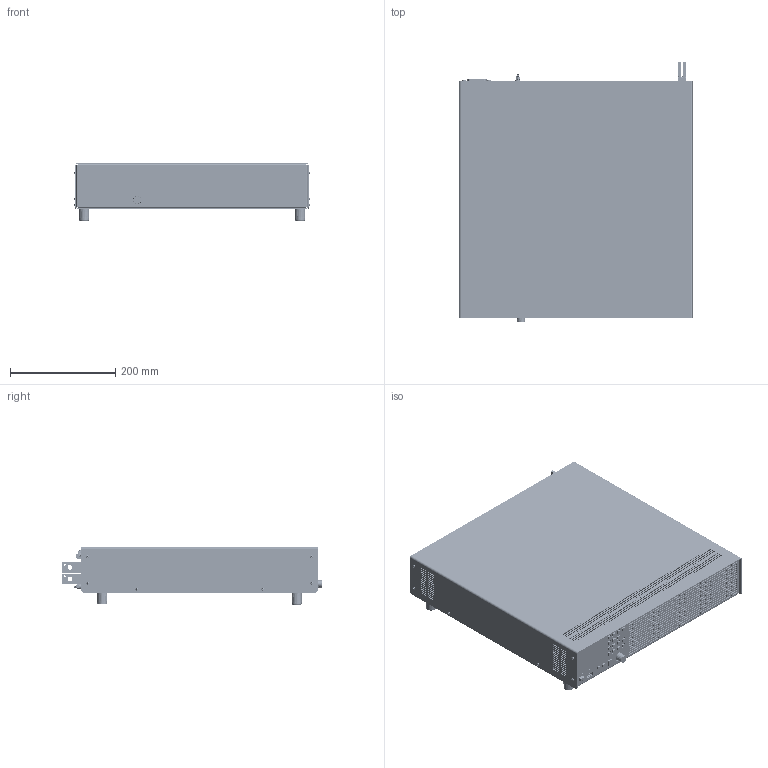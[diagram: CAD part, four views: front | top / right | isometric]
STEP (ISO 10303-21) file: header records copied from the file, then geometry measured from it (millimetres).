
FILE_DESCRIPTION(('STEP AP214'),'1');
FILE_NAME('PLI_M6_19Z_2HE_FKS20_5_SM8_BRB_3D_02.step','2024-05-16T08:33:26',(' '),(' '),'Spatial InterOp 3D',' ',' ');
FILE_SCHEMA(('AUTOMOTIVE_DESIGN { 1 0 10303 214 1 1 1 1 }'));
Length unit declared in the file: millimetre
Products named in the file (15): 1458_PLI_19_Zoll_Boden_3D_03; 1617_PLI Frontplatte 19 mit SIL Tastatur_3D_03_mit_Einbauten_und_Overlay_BRB; A$C2C745159; PLI_Frontplatteneinbauten_nur_für_3D_Modellkonstruktion_3D; AutoCreatedBlock_1198; 1460_PLI_19_Zoll_Rückwand_3D_06_mit_Einbauten_FKS_28_8_SM8_BRB_03; 1F840730; 1E5E0040; *U955; *U956; *U957; 3xM2.5_5x5x12; AutoCreatedBlock_1204; AutoCreatedBlock_1192
Assembly tree (20 placements, depth 3):
  (unnamed)
    1458_PLI_19_Zoll_Boden_3D_03
    1617_PLI Frontplatte 19 mit SIL Tastatur_3D_03_mit_Einbauten_und_Overlay_BRB
      A$C2C745159
      PLI_Frontplatteneinbauten_nur_für_3D_Modellkonstruktion_3D
      AutoCreatedBlock_1198
    1460_PLI_19_Zoll_Rückwand_3D_06_mit_Einbauten_FKS_28_8_SM8_BRB_03
      1F840730  x2
      1E5E0040
      *U955
      *U956  x4
      *U957  x2
      3xM2.5_5x5x12  x2
      AutoCreatedBlock_1204
    AutoCreatedBlock_1192
Bounding box: 447.46 x 494.5 x 109.5 mm (x, y, z)
Volume: 16139014.3 mm3; surface area: 1716167.2 mm2
Topology: 126 solids, 148 shells, 14445 faces, 39059 edges, 25633 vertices
Faces by surface type: plane 8953, cone 2912, cylinder 2071, bspline 205, torus 190, sphere 102, extrusion 12
Entity records: 565284 total; most frequent: CARTESIAN_POINT 101257, ORIENTED_EDGE 72120, DIRECTION 70762, EDGE_CURVE 36100, VECTOR 27364, LINE 27352, VERTEX_POINT 22935, AXIS2_PLACEMENT_3D 21699
